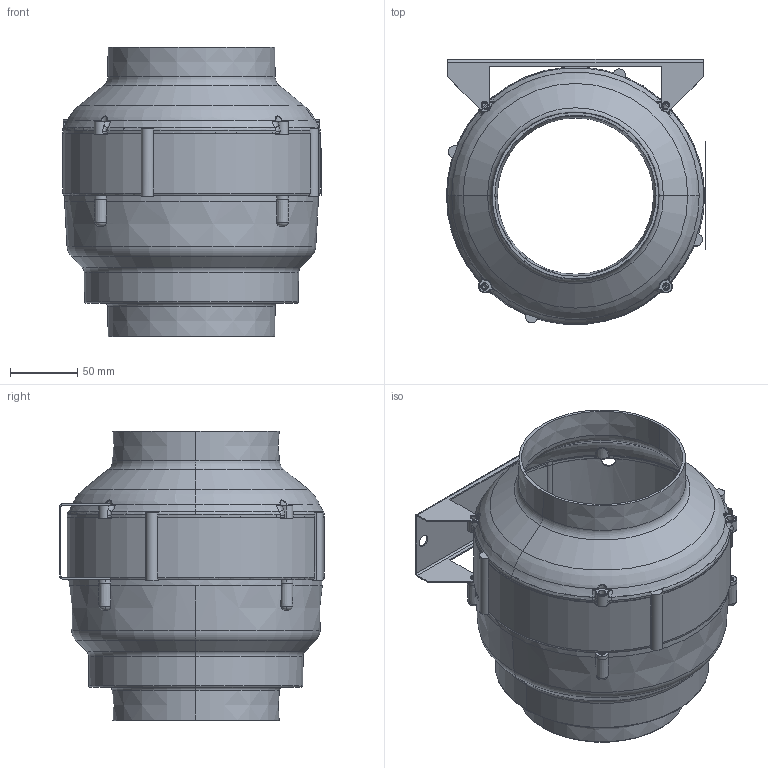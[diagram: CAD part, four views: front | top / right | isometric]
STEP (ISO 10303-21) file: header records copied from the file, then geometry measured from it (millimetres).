
FILE_DESCRIPTION (( 'STEP AP203' ), '1' );
FILE_NAME ('122230-01_EL125E2M01.STEP', '2013-10-07T07:27:32', ( '' ), ( '' ), 'SwSTEP 2.0', 'SolidWorks 2012', '' );
FILE_SCHEMA (( 'CONFIG_CONTROL_DESIGN' ));
Length unit declared in the file: millimetre
Products named in the file (1): 122230-01_EL125E2M01
Bounding box: 192.37 x 196.66 x 215 mm (x, y, z)
Surface area: 288723.4 mm2 (no closed solid volume)
Topology: 0 solids, 18 shells, 384 faces, 1369 edges, 979 vertices
Faces by surface type: cylinder 106, plane 76, torus 74, bspline 68, cone 60
Entity records: 20281 total; most frequent: CARTESIAN_POINT 9260, ORIENTED_EDGE 2238, DIRECTION 2150, EDGE_CURVE 1367, VERTEX_POINT 979, AXIS2_PLACEMENT_3D 896, CIRCLE 579, EDGE_LOOP 434
